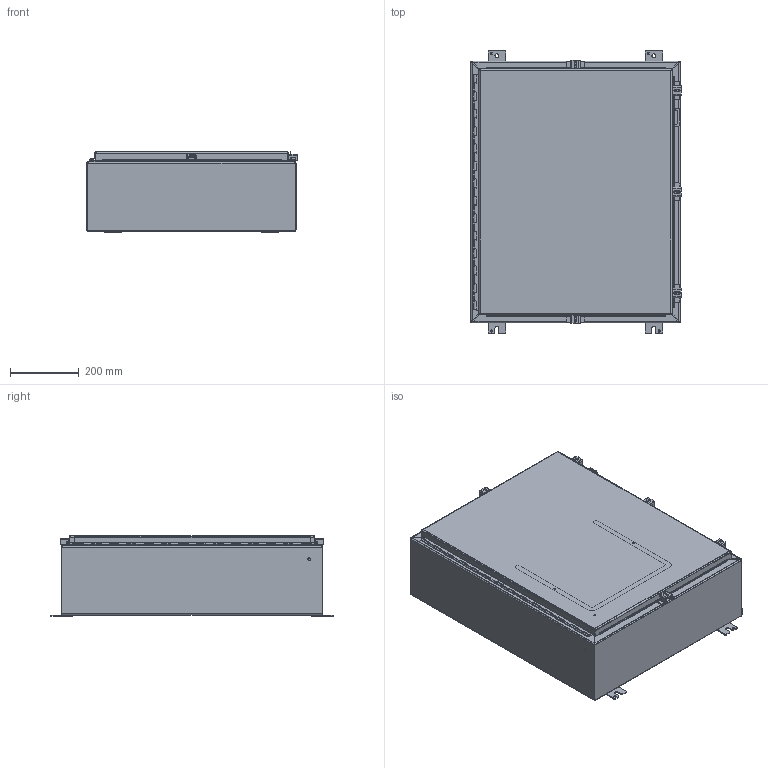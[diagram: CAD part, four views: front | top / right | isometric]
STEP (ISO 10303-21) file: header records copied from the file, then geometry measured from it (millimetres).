
FILE_DESCRIPTION (( 'STEP AP203' ), '1' );
FILE_NAME ('a30h2408sslp.STEP', '2010-02-22T15:13:52', ( 'Hoffman User' ), ( 'Hoffman Enclosures' ), 'SwSTEP 2.0', 'SolidWorks 2009', '' );
FILE_SCHEMA (( 'CONFIG_CONTROL_DESIGN' ));
Length unit declared in the file: inch
Products named in the file (21): 22a18_hinge_body_27in; 22132004; 22300002_brkt_clamp1; 8756004X_clamp1; stud_m6x16_99401226; 22a18_hinge_door_27in; Hasp_22a07; a30h2408sslp; wmt_body_30x24x8; Body_30x24x8; end_24x8; 22110002; 22112003_22112003; assy_clamp_End1; assy_clamp_Side1; wmt_door_30x24; Door_30x24; 11158311_CD Stud M4; 99401225_99401225; 23418001; Panel_Nema_A30P24
Assembly tree (33 placements, depth 4):
  a30h2408sslp
    wmt_door_30x24
      Hasp_22a07
      99401225_99401225
      11158311_CD Stud M4  x2
      Door_30x24
      22a18_hinge_door_27in
      23418001
    Panel_Nema_A30P24
    wmt_body_30x24x8
      22132004
      Body_30x24x8
      assy_clamp_End1  x2
        8756004X_clamp1
        22300002_brkt_clamp1
      22110002  x4
      22a18_hinge_body_27in
      assy_clamp_Side1  x3
        8756004X_clamp1
        22300002_brkt_clamp1
      22112003_22112003  x4
      end_24x8  x2
      stud_m6x16_99401226
Bounding box: 613.28 x 825.25 x 235.01 mm (x, y, z)
Volume: 4142432.8 mm3; surface area: 4362429.9 mm2
Topology: 32 solids, 32 shells, 1535 faces, 3963 edges, 2524 vertices
Faces by surface type: plane 786, cylinder 465, bspline 172, torus 60, cone 52
Entity records: 31847 total; most frequent: CARTESIAN_POINT 7882, ORIENTED_EDGE 4532, DIRECTION 4374, EDGE_CURVE 2266, VECTOR 1526, LINE 1526, VERTEX_POINT 1432, AXIS2_PLACEMENT_3D 1424
